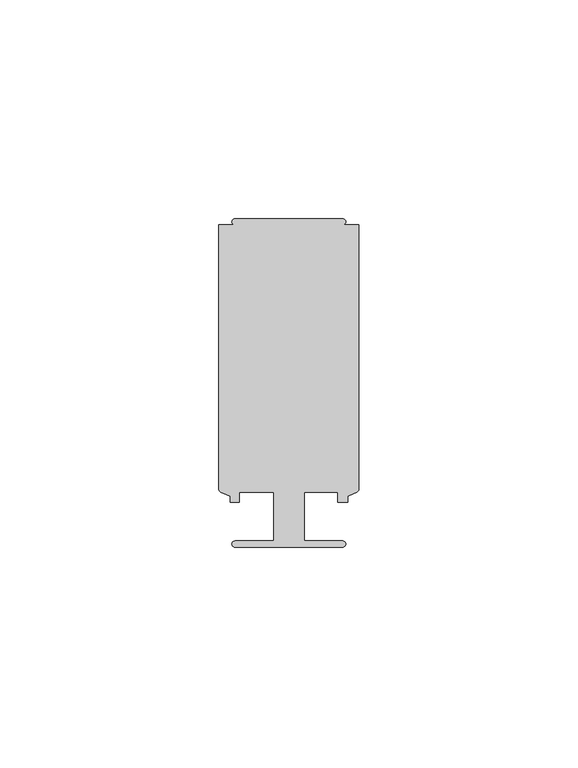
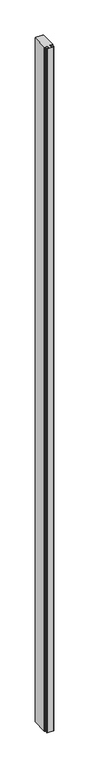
"""IFC4 building model written with IfcOpenShell, lengths in millimetres: member geometry, Прямоугольный импост : 2-AMG-1-Профиль 26Х75 Средний."""

from ifc_helpers import new_model, si_unit, point, frame, frame_2d, origin, place, context, project, spatial, polyline, circle_curve, trimmed, segment, composite_curve, outline, extrude, source, transform, mapped, element, save


def member_2d650191(model_context):
    return source(origin(), model_context, "Body", "SweptSolid", [
        extrude(outline(composite_curve([segment(polyline([(12.2976562, -37.5), (-12.3023438, -37.5)]), True, "CONTINUOUS"), segment(trimmed(circle_curve(frame_2d((-12.3023438, -36.8)), 0.7), [point((-12.3023438, -37.5))], [point((-12.3023438, -36.1))], False, "CARTESIAN"), True, "CONTINUOUS"), segment(polyline([(-12.3023438, -36.1), (-3.5023438, -36.1), (-3.5023438, -25.0), (-11.2993767, -25.0), (-11.2993767, -27.25), (-13.4493278, -27.25), (-13.4493278, -25.836597), (-15.5219415, -24.9333875)]), True, "CONTINUOUS"), segment(trimmed(circle_curve(frame_2d((-15.2023438, -24.2)), 0.8), [point((-15.5219415, -24.9333875))], [point((-16.0023438, -24.2))], False, "CARTESIAN"), True, "CONTINUOUS"), segment(polyline([(-16.0023438, -24.2), (-16.0023438, 36.1), (-12.3004766, 36.1)]), True, "CONTINUOUS"), segment(trimmed(circle_curve(frame_2d((-12.3004766, 36.8)), 0.7), [point((-12.3004766, 36.1))], [point((-12.3004766, 37.5))], False, "CARTESIAN"), True, "CONTINUOUS"), segment(polyline([(-12.3004766, 37.5), (12.295789, 37.5)]), True, "CONTINUOUS"), segment(trimmed(circle_curve(frame_2d((12.295789, 36.8)), 0.7), [point((12.295789, 37.5))], [point((12.295789, 36.1))], False, "CARTESIAN"), True, "CONTINUOUS"), segment(polyline([(12.295789, 36.1), (15.9976562, 36.1), (15.9976562, -24.2)]), True, "CONTINUOUS"), segment(trimmed(circle_curve(frame_2d((15.1976562, -24.2)), 0.8), [point((15.9976562, -24.2))], [point((15.5172539, -24.9333875))], False, "CARTESIAN"), True, "CONTINUOUS"), segment(polyline([(15.5172539, -24.9333875), (13.4446403, -25.836597), (13.4446403, -27.25), (11.2193767, -27.25), (11.2193767, -25.0), (3.4976562, -25.0), (3.4976562, -36.1), (12.2976562, -36.1)]), True, "CONTINUOUS"), segment(trimmed(circle_curve(frame_2d((12.2976562, -36.8)), 0.7), [point((12.2976562, -36.1))], [point((12.2976562, -37.5))], False, "CARTESIAN"), True, "CONTINUOUS")], self_intersect=False)), frame((0.0, 0.0, -2746.0), z_axis=(0.0, 0.0, 1.0), x_axis=(1.0, 0.0, 0.0)), (0.0, 0.0, 1.0), 2746.0),
    ])


if __name__ == "__main__":
    model = new_model("IFC4")
    model_context = context("Model", 3, world=origin())
    ifc_project = project(units=[si_unit("LENGTHUNIT", "METRE", prefix="MILLI")], contexts=[model_context])
    site = spatial("IfcSite", under=ifc_project)
    building = spatial("IfcBuilding", under=site)
    placement = place(None, origin())
    member_shape = member_2d650191(model_context)
    element("IfcMember", 1, ObjectType="Прямоугольный импост : 2-AMG-1-Профиль 26Х75 Средний", at=placement, inside=building, context=model_context, shape_type="MappedRepresentation", body=[
        mapped(member_shape, transform((0.0, 0.0, 0.0), x_axis=(1.0, 0.0, 0.0), y_axis=(0.0, 1.0, 0.0), z_axis=(0.0, 0.0, 1.0))),
    ])
    save(model, "model.ifc")
